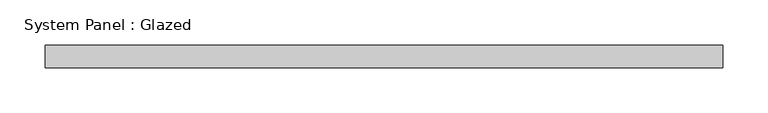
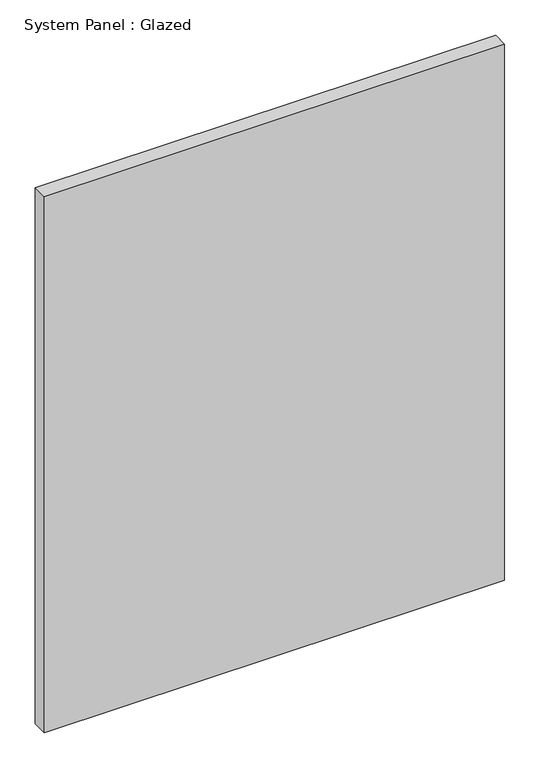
"""IFC4 building model written with IfcOpenShell, lengths in millimetres: plate geometry, System Panel : Glazed."""

from ifc_helpers import new_model, si_unit, origin, origin_with_axes, place, context, project, spatial, polyline, outline, extrude, source, transform, mapped, element, save


def system_panel_glazed_57b9541b(model_context):
    return source(origin(), model_context, "Body", "SweptSolid", [
        extrude(outline(polyline([(376.1582035, 24.5), (-376.1582035, 24.5), (-376.1582035, 49.5), (376.1582035, 49.5), (376.1582035, 24.5)])), origin_with_axes(), (0.0, 0.0, 1.0), 925.0),
    ])


if __name__ == "__main__":
    model = new_model("IFC4")
    model_context = context("Model", 3, world=origin())
    ifc_project = project(units=[si_unit("LENGTHUNIT", "METRE", prefix="MILLI")], contexts=[model_context])
    site = spatial("IfcSite", under=ifc_project)
    building = spatial("IfcBuilding", under=site)
    placement = place(None, origin())
    system_panel_glazed_shape = system_panel_glazed_57b9541b(model_context)
    element("IfcPlate", 1, ObjectType="System Panel : Glazed", at=placement, inside=building, context=model_context, shape_type="MappedRepresentation", body=[
        mapped(system_panel_glazed_shape, transform((0.0, 0.0, 0.0), x_axis=(1.0, 0.0, 0.0), y_axis=(0.0, 1.0, 0.0), z_axis=(0.0, 0.0, 1.0))),
    ])
    save(model, "model.ifc")
